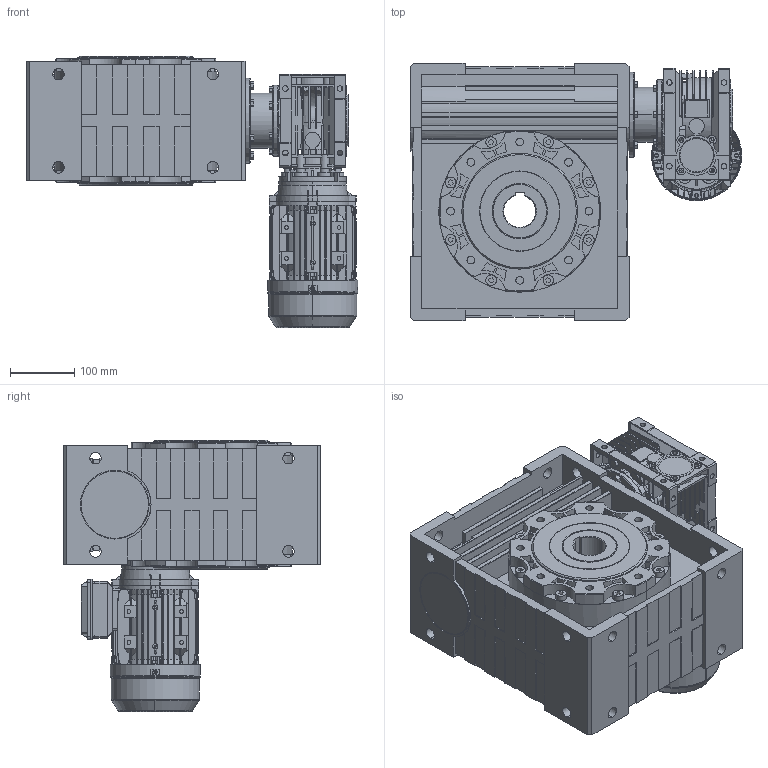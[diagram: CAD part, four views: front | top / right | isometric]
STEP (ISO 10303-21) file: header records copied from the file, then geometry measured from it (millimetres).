
FILE_DESCRIPTION (( 'STEP AP214' ), '1' );
FILE_NAME ('CMRV150-063-MX71.STEP', '2019-03-07T09:51:14', ( '' ), ( '' ), 'SwSTEP 2.0', 'SolidWorks 2012', '' );
FILE_SCHEMA (( 'AUTOMOTIVE_DESIGN' ));
Length unit declared in the file: millimetre
Products named in the file (14): MX71_B14; Lüfterhaube_MS71; L黤terfl黦el_MS71; Klemmkastenoberteil_MS71; Klemmenkastenunterteil_MS71; B14-Flansch_MS71; B-Lagerschild_MS71; Gehäuse_MS71L; CMRV063_B07; 9; 8; 7; 3; CMRV150-063-MX71
Assembly tree (13 placements, depth 3):
  CMRV150-063-MX71
    3
    7
    8
    9
    CMRV063_B07
    MX71_B14
      Gehäuse_MS71L
      B-Lagerschild_MS71
      B14-Flansch_MS71
      Klemmenkastenunterteil_MS71
      Klemmkastenoberteil_MS71
      L黤terfl黦el_MS71
      Lüfterhaube_MS71
Bounding box: 515 x 400 x 421.71 mm (x, y, z)
Volume: 19363288.6 mm3; surface area: 2045658.8 mm2
Topology: 11 solids, 18 shells, 3871 faces, 11078 edges, 7342 vertices
Faces by surface type: plane 2182, cylinder 1230, cone 300, bspline 150, torus 9
Entity records: 154579 total; most frequent: CARTESIAN_POINT 43394, ORIENTED_EDGE 21473, DIRECTION 19700, EDGE_CURVE 11068, VERTEX_POINT 7342, LINE 6616, VECTOR 6616, AXIS2_PLACEMENT_3D 6542
